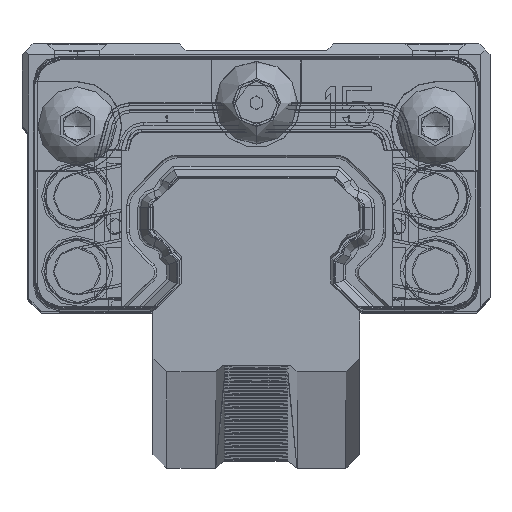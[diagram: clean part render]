
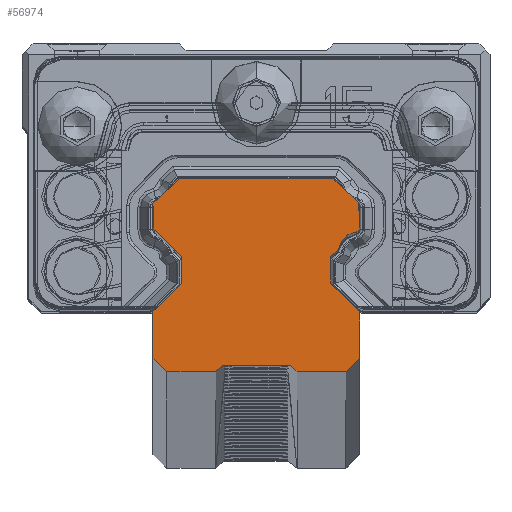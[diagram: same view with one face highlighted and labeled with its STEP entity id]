
A CAD part, top view. The second image highlights one B-rep face of the part: STEP entity #56974.
In plain terms, the highlighted planar face has unit normal (0, 0, 1).
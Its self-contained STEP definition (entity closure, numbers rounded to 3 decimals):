
#44799=DIRECTION('',(0.707,-0.707,0.));
#44800=VECTOR('',#44799,0.758);
#44801=CARTESIAN_POINT('',(-5.936,-2.414,500.));
#44802=LINE('',#44801,#44800);
#44827=DIRECTION('',(0.707,0.707,0.));
#44828=VECTOR('',#44827,0.707);
#44829=CARTESIAN_POINT('',(-2.95,-11.3,500.));
#44830=LINE('',#44829,#44828);
#45563=DIRECTION('',(-0.707,-0.707,0.));
#45564=VECTOR('',#45563,0.494);
#45565=CARTESIAN_POINT('',(-5.6,2.7,500.));
#45566=LINE('',#45565,#45564);
#45998=CARTESIAN_POINT('',(2.45,-10.8,500.));
#46000=DIRECTION('',(0.707,-0.707,0.));
#46001=VECTOR('',#46000,0.707);
#46002=CARTESIAN_POINT('',(2.45,-10.8,500.));
#46003=LINE('',#46002,#46001);
#49313=DIRECTION('',(1.,0.,0.));
#49314=VECTOR('',#49313,4.9);
#49315=CARTESIAN_POINT('',(-2.45,-10.8,500.));
#49316=LINE('',#49315,#49314);
#49317=CARTESIAN_POINT('',(-5.936,-2.414,500.));
#49318=CARTESIAN_POINT('',(-5.98,-2.183,500.));
#49319=CARTESIAN_POINT('',(-6.157,-1.769,500.));
#49320=CARTESIAN_POINT('',(-6.608,-1.371,500.));
#49321=CARTESIAN_POINT('',(-7.067,-1.061,500.));
#49322=CARTESIAN_POINT('',(-7.423,-1.005,500.));
#49324=DIRECTION('',(-0.042,0.999,0.));
#49325=VECTOR('',#49324,1.841);
#49326=CARTESIAN_POINT('',(-7.423,-1.005,500.));
#49327=LINE('',#49326,#49325);
#49328=CARTESIAN_POINT('',(-7.2,0.834,500.));
#49329=DIRECTION('',(0.,0.,-1.));
#49330=DIRECTION('',(-1.,0.,0.));
#49331=AXIS2_PLACEMENT_3D('',#49328,#49329,#49330);
#49333=CARTESIAN_POINT('',(-7.19,1.143,500.));
#49334=CARTESIAN_POINT('',(-6.98,1.203,500.));
#49335=CARTESIAN_POINT('',(-6.676,1.296,500.));
#49336=CARTESIAN_POINT('',(-6.184,1.738,500.));
#49337=CARTESIAN_POINT('',(-6.002,2.122,500.));
#49338=CARTESIAN_POINT('',(-5.949,2.351,500.));
#49340=DIRECTION('',(1.,0.,0.));
#49341=VECTOR('',#49340,11.2);
#49342=CARTESIAN_POINT('',(-5.6,2.7,500.));
#49343=LINE('',#49342,#49341);
#49344=CARTESIAN_POINT('',(5.949,2.351,500.));
#49345=CARTESIAN_POINT('',(5.998,2.141,500.));
#49346=CARTESIAN_POINT('',(6.171,1.758,500.));
#49347=CARTESIAN_POINT('',(6.589,1.387,500.));
#49348=CARTESIAN_POINT('',(7.05,1.068,500.));
#49349=CARTESIAN_POINT('',(7.418,1.006,500.));
#49351=DIRECTION('',(0.044,-0.999,0.));
#49352=VECTOR('',#49351,1.842);
#49353=CARTESIAN_POINT('',(7.418,1.006,500.));
#49354=LINE('',#49353,#49352);
#49355=CARTESIAN_POINT('',(7.2,-0.834,500.));
#49356=DIRECTION('',(0.,0.,-1.));
#49357=DIRECTION('',(1.,0.,0.));
#49358=AXIS2_PLACEMENT_3D('',#49355,#49356,#49357);
#49360=CARTESIAN_POINT('',(7.509,-2.709,500.));
#49361=DIRECTION('',(0.,0.,1.));
#49362=DIRECTION('',(-0.163,0.987,0.));
#49363=AXIS2_PLACEMENT_3D('',#49360,#49361,#49362);
#49365=DIRECTION('',(0.,-1.,0.));
#49366=VECTOR('',#49365,1.9);
#49367=CARTESIAN_POINT('',(5.4,-2.95,500.));
#49368=LINE('',#49367,#49366);
#49369=DIRECTION('',(0.707,-0.707,0.));
#49370=VECTOR('',#49369,2.97);
#49371=CARTESIAN_POINT('',(5.4,-4.85,500.));
#49372=LINE('',#49371,#49370);
#49373=DIRECTION('',(0.,-1.,0.));
#49374=VECTOR('',#49373,3.35);
#49375=CARTESIAN_POINT('',(7.5,-6.95,500.));
#49376=LINE('',#49375,#49374);
#49377=DIRECTION('',(-0.707,-0.707,0.));
#49378=VECTOR('',#49377,1.414);
#49379=CARTESIAN_POINT('',(7.5,-10.3,500.));
#49380=LINE('',#49379,#49378);
#49381=DIRECTION('',(-1.,0.,0.));
#49382=VECTOR('',#49381,3.55);
#49383=CARTESIAN_POINT('',(6.5,-11.3,500.));
#49384=LINE('',#49383,#49382);
#49385=DIRECTION('',(-1.,0.,0.));
#49386=VECTOR('',#49385,3.55);
#49387=CARTESIAN_POINT('',(-2.95,-11.3,500.));
#49388=LINE('',#49387,#49386);
#49389=DIRECTION('',(-0.707,0.707,0.));
#49390=VECTOR('',#49389,1.414);
#49391=CARTESIAN_POINT('',(-6.5,-11.3,500.));
#49392=LINE('',#49391,#49390);
#49393=DIRECTION('',(0.,1.,0.));
#49394=VECTOR('',#49393,3.35);
#49395=CARTESIAN_POINT('',(-7.5,-10.3,500.));
#49396=LINE('',#49395,#49394);
#49397=DIRECTION('',(0.707,0.707,0.));
#49398=VECTOR('',#49397,2.97);
#49399=CARTESIAN_POINT('',(-7.5,-6.95,500.));
#49400=LINE('',#49399,#49398);
#49401=DIRECTION('',(0.,1.,0.));
#49402=VECTOR('',#49401,1.9);
#49403=CARTESIAN_POINT('',(-5.4,-4.85,500.));
#49404=LINE('',#49403,#49402);
#49405=DIRECTION('',(-0.707,0.707,0.));
#49406=VECTOR('',#49405,0.494);
#49407=CARTESIAN_POINT('',(5.949,2.351,500.));
#49408=LINE('',#49407,#49406);
#49437=DIRECTION('',(0.707,0.707,0.));
#49438=VECTOR('',#49437,0.758);
#49439=CARTESIAN_POINT('',(5.4,-2.95,500.));
#49440=LINE('',#49439,#49438);
#49937=CARTESIAN_POINT('',(-5.936,-2.414,500.));
#49939=VERTEX_POINT('',#49937);
#49942=CARTESIAN_POINT('',(-7.423,-1.005,500.));
#49943=VERTEX_POINT('',#49942);
#49945=CARTESIAN_POINT('',(-5.4,-2.95,500.));
#49947=VERTEX_POINT('',#49945);
#49949=CARTESIAN_POINT('',(-5.4,-4.85,500.));
#49951=VERTEX_POINT('',#49949);
#49953=CARTESIAN_POINT('',(-7.5,-6.95,500.));
#49955=VERTEX_POINT('',#49953);
#49957=CARTESIAN_POINT('',(-7.5,-10.3,500.));
#49959=VERTEX_POINT('',#49957);
#49961=CARTESIAN_POINT('',(-6.5,-11.3,500.));
#49963=VERTEX_POINT('',#49961);
#49965=CARTESIAN_POINT('',(-2.95,-11.3,500.));
#49967=VERTEX_POINT('',#49965);
#49973=CARTESIAN_POINT('',(-2.45,-10.8,500.));
#49974=VERTEX_POINT('',#49973);
#50138=VERTEX_POINT('',#45998);
#50191=CARTESIAN_POINT('',(2.95,-11.3,500.));
#50192=VERTEX_POINT('',#50191);
#50195=CARTESIAN_POINT('',(-7.5,0.834,500.));
#50196=VERTEX_POINT('',#50195);
#50197=CARTESIAN_POINT('',(-7.249,1.13,500.));
#50198=VERTEX_POINT('',#50197);
#50199=VERTEX_POINT('',#49338);
#50200=CARTESIAN_POINT('',(-5.6,2.7,500.));
#50201=VERTEX_POINT('',#50200);
#50202=CARTESIAN_POINT('',(5.6,2.7,500.));
#50203=VERTEX_POINT('',#50202);
#50204=CARTESIAN_POINT('',(5.949,2.351,500.));
#50205=VERTEX_POINT('',#50204);
#50206=VERTEX_POINT('',#49349);
#50207=CARTESIAN_POINT('',(7.5,-0.834,500.));
#50208=VERTEX_POINT('',#50207);
#50209=CARTESIAN_POINT('',(7.249,-1.13,500.));
#50210=VERTEX_POINT('',#50209);
#50211=CARTESIAN_POINT('',(5.936,-2.414,500.));
#50212=VERTEX_POINT('',#50211);
#50213=CARTESIAN_POINT('',(5.4,-2.95,500.));
#50214=VERTEX_POINT('',#50213);
#50215=CARTESIAN_POINT('',(5.4,-4.85,500.));
#50216=VERTEX_POINT('',#50215);
#50217=CARTESIAN_POINT('',(7.5,-6.95,500.));
#50218=VERTEX_POINT('',#50217);
#50219=CARTESIAN_POINT('',(7.5,-10.3,500.));
#50220=VERTEX_POINT('',#50219);
#50221=CARTESIAN_POINT('',(6.5,-11.3,500.));
#50222=VERTEX_POINT('',#50221);
#56930=CARTESIAN_POINT('',(0.,0.,500.));
#56931=DIRECTION('',(0.,0.,1.));
#56932=DIRECTION('',(1.,0.,0.));
#56933=AXIS2_PLACEMENT_3D('',#56930,#56931,#56932);
#56934=PLANE('',#56933);
#56935=ORIENTED_EDGE('',*,*,#51070,.T.);
#56936=ORIENTED_EDGE('',*,*,#51860,.T.);
#56937=ORIENTED_EDGE('',*,*,#51845,.T.);
#56938=ORIENTED_EDGE('',*,*,#51830,.T.);
#56939=ORIENTED_EDGE('',*,*,#51815,.F.);
#56940=ORIENTED_EDGE('',*,*,#51400,.T.);
#56942=ORIENTED_EDGE('',*,*,#56941,.F.);
#56944=ORIENTED_EDGE('',*,*,#56943,.T.);
#56946=ORIENTED_EDGE('',*,*,#56945,.T.);
#56948=ORIENTED_EDGE('',*,*,#56947,.T.);
#56950=ORIENTED_EDGE('',*,*,#56949,.T.);
#56952=ORIENTED_EDGE('',*,*,#56951,.F.);
#56954=ORIENTED_EDGE('',*,*,#56953,.T.);
#56956=ORIENTED_EDGE('',*,*,#56955,.T.);
#56958=ORIENTED_EDGE('',*,*,#56957,.T.);
#56960=ORIENTED_EDGE('',*,*,#56959,.T.);
#56962=ORIENTED_EDGE('',*,*,#56961,.T.);
#56963=ORIENTED_EDGE('',*,*,#52091,.F.);
#56964=ORIENTED_EDGE('',*,*,#56925,.F.);
#56965=ORIENTED_EDGE('',*,*,#51177,.F.);
#56966=ORIENTED_EDGE('',*,*,#51160,.T.);
#56967=ORIENTED_EDGE('',*,*,#51145,.T.);
#56968=ORIENTED_EDGE('',*,*,#51130,.T.);
#56969=ORIENTED_EDGE('',*,*,#51115,.T.);
#56970=ORIENTED_EDGE('',*,*,#51100,.T.);
#56971=ORIENTED_EDGE('',*,*,#51085,.F.);
#56972=EDGE_LOOP('',(#56935,#56936,#56937,#56938,#56939,#56940,#56942,#56944,
#56946,#56948,#56950,#56952,#56954,#56956,#56958,#56960,#56962,#56963,#56964,
#56965,#56966,#56967,#56968,#56969,#56970,#56971));
#56973=FACE_OUTER_BOUND('',#56972,.F.);
#56974=ADVANCED_FACE('',(#56973),#56934,.T.);
#49323=B_SPLINE_CURVE_WITH_KNOTS('',3,(#49317,#49318,#49319,#49320,#49321,
#49322),.UNSPECIFIED.,.F.,.F.,(4,1,1,4),(0.,0.333,
0.667,1.),.UNSPECIFIED.);
#49332=CIRCLE('',#49331,0.3);
#49339=B_SPLINE_CURVE_WITH_KNOTS('',3,(#49333,#49334,#49335,#49336,#49337,
#49338),.UNSPECIFIED.,.F.,.F.,(4,1,1,4),(0.,0.333,
0.667,1.),.UNSPECIFIED.);
#49350=B_SPLINE_CURVE_WITH_KNOTS('',3,(#49344,#49345,#49346,#49347,#49348,
#49349),.UNSPECIFIED.,.F.,.F.,(4,1,1,4),(0.,0.333,
0.667,1.),.UNSPECIFIED.);
#49359=CIRCLE('',#49358,0.3);
#49364=CIRCLE('',#49363,1.6);
#51070=EDGE_CURVE('',#49939,#49943,#49323,.T.);
#51085=EDGE_CURVE('',#49939,#49947,#44802,.T.);
#51100=EDGE_CURVE('',#49951,#49947,#49404,.T.);
#51115=EDGE_CURVE('',#49955,#49951,#49400,.T.);
#51130=EDGE_CURVE('',#49959,#49955,#49396,.T.);
#51145=EDGE_CURVE('',#49963,#49959,#49392,.T.);
#51160=EDGE_CURVE('',#49967,#49963,#49388,.T.);
#51177=EDGE_CURVE('',#49967,#49974,#44830,.T.);
#51400=EDGE_CURVE('',#50201,#50203,#49343,.T.);
#51815=EDGE_CURVE('',#50201,#50199,#45566,.T.);
#51830=EDGE_CURVE('',#50198,#50199,#49339,.T.);
#51845=EDGE_CURVE('',#50196,#50198,#49332,.T.);
#51860=EDGE_CURVE('',#49943,#50196,#49327,.T.);
#52091=EDGE_CURVE('',#50138,#50192,#46003,.T.);
#56925=EDGE_CURVE('',#49974,#50138,#49316,.T.);
#56941=EDGE_CURVE('',#50205,#50203,#49408,.T.);
#56943=EDGE_CURVE('',#50205,#50206,#49350,.T.);
#56945=EDGE_CURVE('',#50206,#50208,#49354,.T.);
#56947=EDGE_CURVE('',#50208,#50210,#49359,.T.);
#56949=EDGE_CURVE('',#50210,#50212,#49364,.T.);
#56951=EDGE_CURVE('',#50214,#50212,#49440,.T.);
#56953=EDGE_CURVE('',#50214,#50216,#49368,.T.);
#56955=EDGE_CURVE('',#50216,#50218,#49372,.T.);
#56957=EDGE_CURVE('',#50218,#50220,#49376,.T.);
#56959=EDGE_CURVE('',#50220,#50222,#49380,.T.);
#56961=EDGE_CURVE('',#50222,#50192,#49384,.T.);
